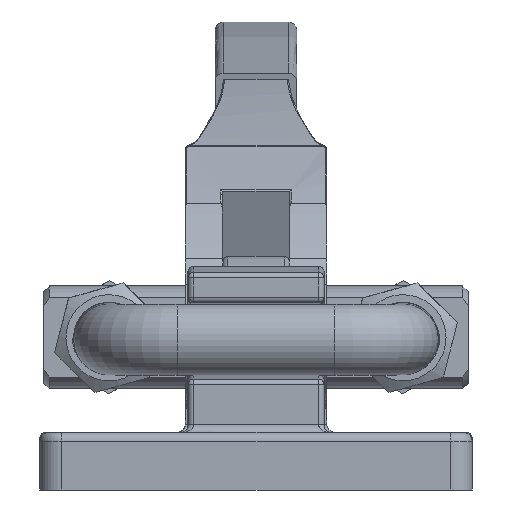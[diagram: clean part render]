
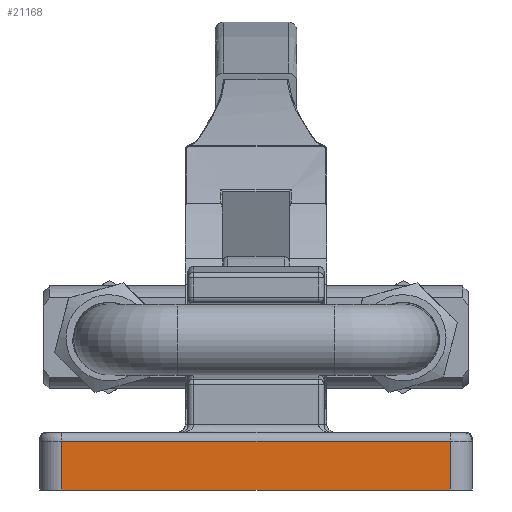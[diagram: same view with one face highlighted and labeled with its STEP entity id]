
A CAD part, left-side view. The second image highlights one B-rep face of the part: STEP entity #21168.
In plain terms, the highlighted planar face has unit normal (-1, 0, 0).
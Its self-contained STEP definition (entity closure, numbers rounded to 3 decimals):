
#444=PLANE('',#22675);
#1342=FACE_OUTER_BOUND('',#2529,.T.);
#2529=EDGE_LOOP('',(#14980,#14981,#14982,#14983));
#4378=LINE('',#31579,#6319);
#4379=LINE('',#31582,#6320);
#4381=LINE('',#31588,#6322);
#4382=LINE('',#31589,#6323);
#6319=VECTOR('',#24739,1000.);
#6320=VECTOR('',#24742,1000.);
#6322=VECTOR('',#24748,1000.);
#6323=VECTOR('',#24749,1000.);
#9039=VERTEX_POINT('',#31565);
#9045=VERTEX_POINT('',#31577);
#9046=VERTEX_POINT('',#31581);
#9048=VERTEX_POINT('',#31587);
#11346=EDGE_CURVE('',#9039,#9045,#4378,.T.);
#11347=EDGE_CURVE('',#9046,#9039,#4379,.T.);
#11350=EDGE_CURVE('',#9048,#9045,#4381,.T.);
#11351=EDGE_CURVE('',#9048,#9046,#4382,.T.);
#14980=ORIENTED_EDGE('',*,*,#11350,.F.);
#14981=ORIENTED_EDGE('',*,*,#11351,.T.);
#14982=ORIENTED_EDGE('',*,*,#11347,.T.);
#14983=ORIENTED_EDGE('',*,*,#11346,.T.);
#21168=ADVANCED_FACE('',(#1342),#444,.F.);
#22675=AXIS2_PLACEMENT_3D('',#31586,#24746,#24747);
#24739=DIRECTION('',(0.,-1.,0.));
#24742=DIRECTION('',(0.,0.,-1.));
#24746=DIRECTION('center_axis',(1.,0.,0.));
#24747=DIRECTION('ref_axis',(0.,0.,-1.));
#24748=DIRECTION('',(0.,0.,-1.));
#24749=DIRECTION('',(0.,1.,0.));
#31565=CARTESIAN_POINT('',(0.,75.4,0.));
#31577=CARTESIAN_POINT('',(0.,4.,0.));
#31579=CARTESIAN_POINT('',(0.,75.4,0.));
#31581=CARTESIAN_POINT('',(0.,75.4,9.));
#31582=CARTESIAN_POINT('',(0.,75.4,10.5));
#31586=CARTESIAN_POINT('Origin',(0.,75.4,10.5));
#31587=CARTESIAN_POINT('',(0.,4.,9.));
#31588=CARTESIAN_POINT('',(0.,4.,10.5));
#31589=CARTESIAN_POINT('',(0.,75.4,9.));
